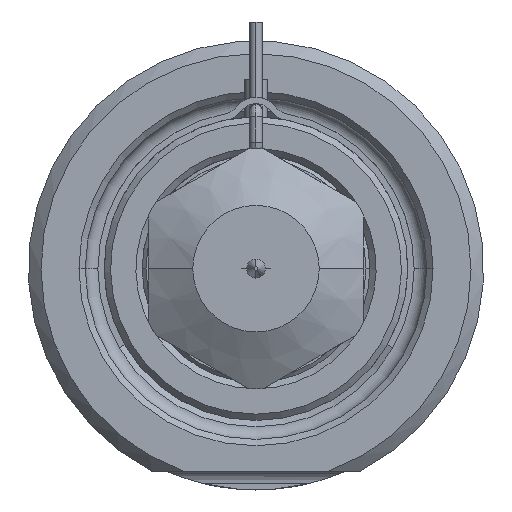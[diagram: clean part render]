
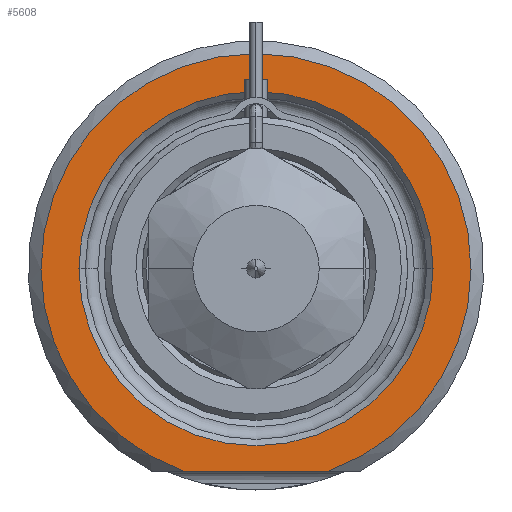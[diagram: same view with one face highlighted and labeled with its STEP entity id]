
A CAD part, front view. The second image highlights one B-rep face of the part: STEP entity #5608.
In plain terms, the highlighted planar face has unit normal (0, -1, 0).
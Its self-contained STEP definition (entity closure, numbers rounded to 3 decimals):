
#2037=DIRECTION('',(1.,0.,0.));
#2038=VECTOR('',#2037,11.489);
#2039=CARTESIAN_POINT('',(-5.745,0.,-16.));
#2040=LINE('',#2039,#2038);
#2041=CARTESIAN_POINT('',(0.,0.,0.));
#2042=DIRECTION('',(0.,1.,0.));
#2043=DIRECTION('',(-1.,0.,0.));
#2044=AXIS2_PLACEMENT_3D('',#2041,#2042,#2043);
#2046=CARTESIAN_POINT('',(0.,0.,0.));
#2047=DIRECTION('',(0.,1.,0.));
#2048=DIRECTION('',(1.,0.,0.));
#2049=AXIS2_PLACEMENT_3D('',#2046,#2047,#2048);
#2153=CARTESIAN_POINT('',(0.,0.,0.));
#2154=DIRECTION('',(0.,-1.,0.));
#2155=DIRECTION('',(0.338,0.,-0.941));
#2156=AXIS2_PLACEMENT_3D('',#2153,#2154,#2155);
#3101=CARTESIAN_POINT('',(-14.,0.,0.));
#3102=CARTESIAN_POINT('',(14.,0.,0.));
#3103=VERTEX_POINT('',#3101);
#3104=VERTEX_POINT('',#3102);
#3141=CARTESIAN_POINT('',(-5.745,0.,-16.));
#3142=CARTESIAN_POINT('',(5.745,0.,-16.));
#3143=VERTEX_POINT('',#3141);
#3144=VERTEX_POINT('',#3142);
#5592=CARTESIAN_POINT('',(0.,0.,0.));
#5593=DIRECTION('',(0.,-1.,0.));
#5594=DIRECTION('',(1.,0.,0.));
#5595=AXIS2_PLACEMENT_3D('',#5592,#5593,#5594);
#5596=PLANE('',#5595);
#5598=ORIENTED_EDGE('',*,*,#5597,.F.);
#5600=ORIENTED_EDGE('',*,*,#5599,.F.);
#5601=EDGE_LOOP('',(#5598,#5600));
#5602=FACE_OUTER_BOUND('',#5601,.F.);
#5604=ORIENTED_EDGE('',*,*,#5603,.F.);
#5605=ORIENTED_EDGE('',*,*,#5582,.F.);
#5606=EDGE_LOOP('',(#5604,#5605));
#5607=FACE_BOUND('',#5606,.F.);
#5608=ADVANCED_FACE('',(#5602,#5607),#5596,.T.);
#2045=CIRCLE('',#2044,14.);
#2050=CIRCLE('',#2049,14.);
#2157=CIRCLE('',#2156,17.);
#5582=EDGE_CURVE('',#3104,#3103,#2050,.T.);
#5597=EDGE_CURVE('',#3143,#3144,#2040,.T.);
#5599=EDGE_CURVE('',#3144,#3143,#2157,.T.);
#5603=EDGE_CURVE('',#3103,#3104,#2045,.T.);
